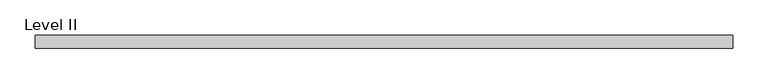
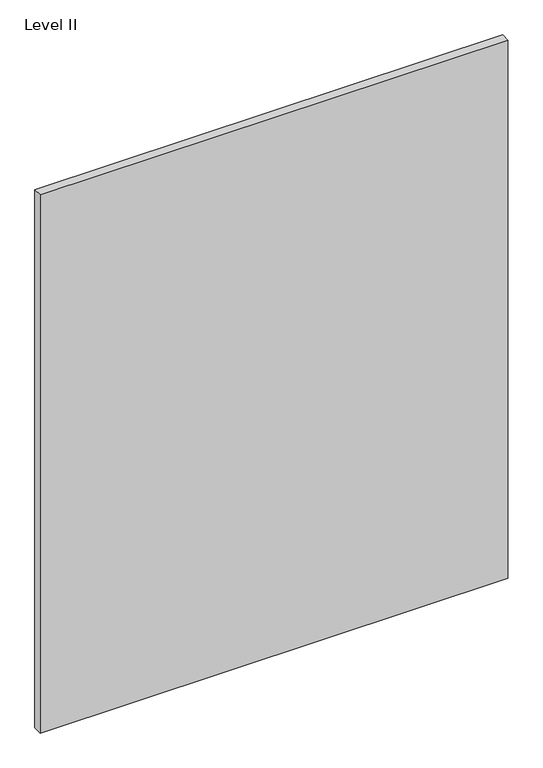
"""IFC4 building model written with IfcOpenShell, lengths in millimetres: proxy geometry, Panel-Fascia-Teknion-Altos-Standard : Level II."""

from ifc_helpers import new_model, si_unit, frame, origin, place, context, project, spatial, polyline, outline, extrude, source, transform, mapped, element, save


def level_ii_eb892959(model_context):
    return source(origin(), model_context, "Body", "SweptSolid", [
        extrude(outline(polyline([(498.4198344, 9.525), (498.4198344, -9.525), (-498.4198344, -9.525), (-498.4198344, 9.525), (498.4198344, 9.525)])), frame((0.0, 0.0, 3.175), z_axis=(0.0, 0.0, 1.0), x_axis=(1.0, 0.0, 0.0)), (0.0, 0.0, 1.0), 1212.85),
    ])


if __name__ == "__main__":
    model = new_model("IFC4")
    model_context = context("Model", 3, world=origin())
    ifc_project = project(units=[si_unit("LENGTHUNIT", "METRE", prefix="MILLI")], contexts=[model_context])
    site = spatial("IfcSite", under=ifc_project)
    building = spatial("IfcBuilding", under=site)
    placement = place(None, origin())
    level_ii_shape = level_ii_eb892959(model_context)
    element("IfcBuildingElementProxy", 1, Name="Panel-Fascia-Teknion-Altos-Standard : Level II", ObjectType="Panel-Fascia-Teknion-Altos-Standard : Level II", at=placement, inside=building, context=model_context, shape_type="MappedRepresentation", body=[
        mapped(level_ii_shape, transform((0.0, 0.0, 0.0), x_axis=(1.0, 0.0, 0.0), y_axis=(0.0, 1.0, 0.0), z_axis=(0.0, 0.0, 1.0))),
    ])
    save(model, "model.ifc")
